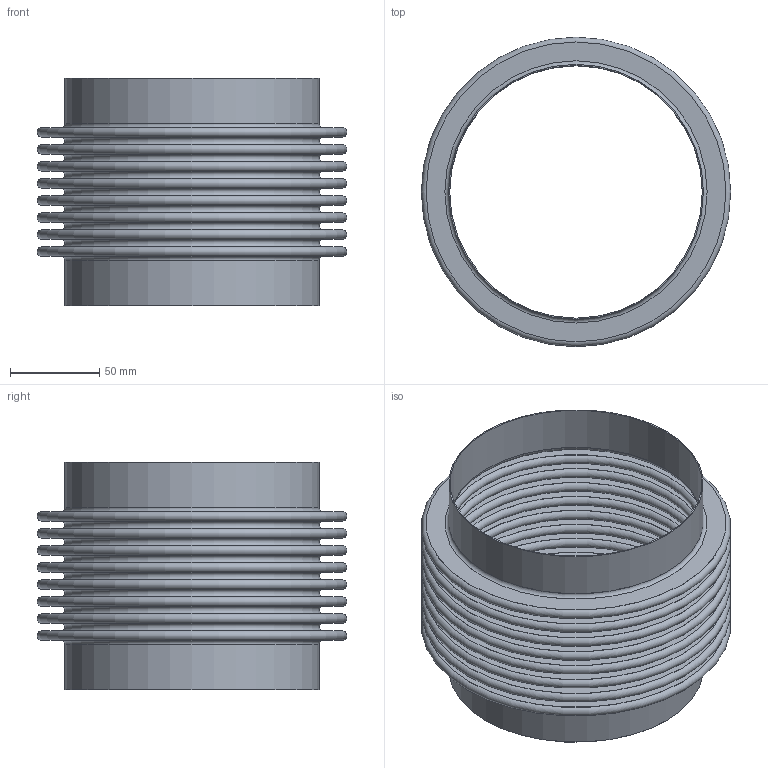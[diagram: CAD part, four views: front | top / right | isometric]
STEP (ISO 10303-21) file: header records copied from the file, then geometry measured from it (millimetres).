
FILE_DESCRIPTION(/* description */ (''),/* implementation_level */ '2;1');
FILE_NAME(/* name */ 'US-5-8-85S.stp',/* time_stamp */ '2026-07-21T11:10:25-05:00',/* author */ ('linda'),/* organization */ (''),/* preprocessor_version */ 'ST-DEVELOPER v20.1',/* originating_system */ 'Autodesk Inventor 2026',/* authorisation */ '');
FILE_SCHEMA (('AUTOMOTIVE_DESIGN { 1 0 10303 214 3 1 1 }'));
Length unit declared in the file: inch
Products named in the file (1): Part3
Bounding box: 173.05 x 173.05 x 127 mm (x, y, z)
Volume: 100418.6 mm3; surface area: 331088.1 mm2
Topology: 3 solids, 3 shells, 76 faces, 114 edges, 77 vertices
Faces by surface type: plane 38, torus 34, cylinder 4
Full cylindrical faces by diameter (mm): 141.3 x2, 142.519 x2
Entity records: 1899 total; most frequent: DIRECTION 378, CARTESIAN_POINT 268, ORIENTED_EDGE 228, AXIS2_PLACEMENT_3D 187, EDGE_LOOP 114, EDGE_CURVE 114, CIRCLE 110, STYLED_ITEM 79
